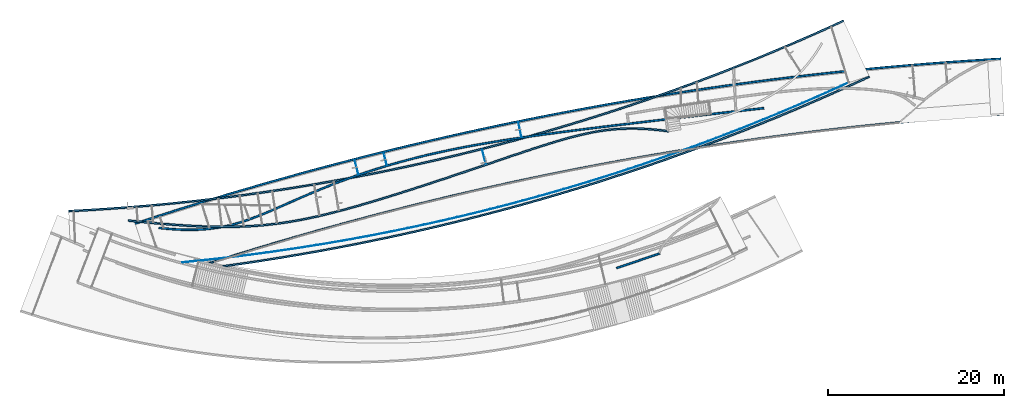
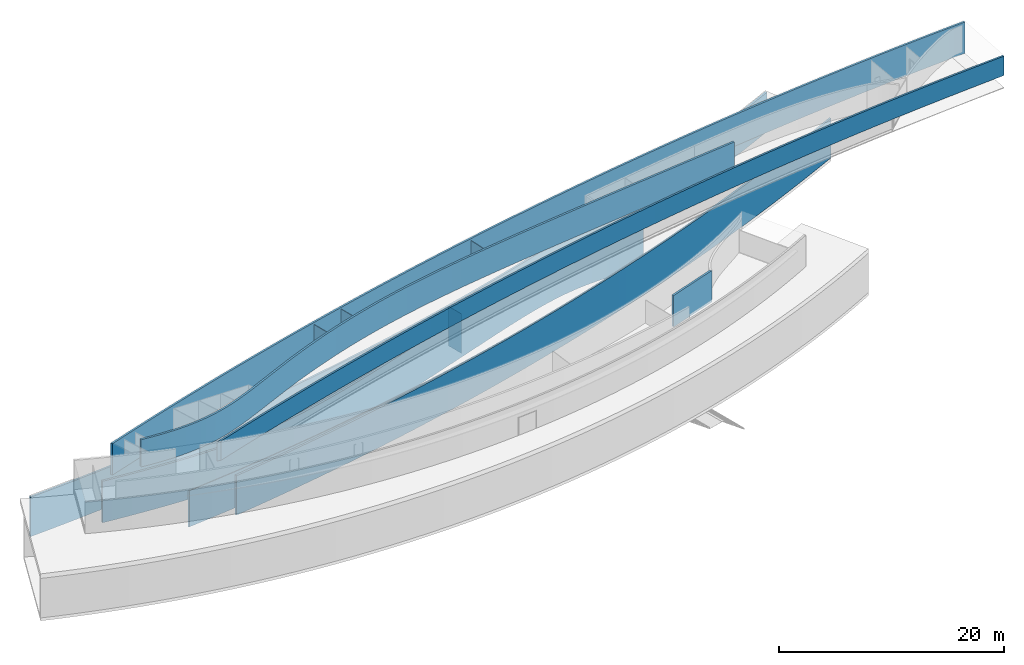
# Not in any storey, part 6 of 16: 12 walls.
"""IFC2X3 model written with IfcOpenShell, lengths in millimetres."""

from ifc_helpers import new_model, entity, si_unit, converted_unit, point, direction, frame, frame_2d, origin_with_axes, place, context, project, spatial, polyline, circle_curve, trimmed, segment, composite_curve, outline, extrude, material, layer, layer_set, layer_usage, type_object, element, save


model = new_model("IFC2X3")

# Units and contexts
model_context = context("Model", 3, precision=1.0, world=origin_with_axes(), true_north=direction((0.0, 1.0)))
ifc_project = project(units=[converted_unit("PLANEANGLEUNIT", "DEGREE", entity("IfcRatioMeasure", 0.017453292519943), si_unit("PLANEANGLEUNIT", "RADIAN"), dimensions=[0, 0, 0, 0, 0, 0, 0]), si_unit("LENGTHUNIT", "METRE", prefix="MILLI")], contexts=[model_context])

# Site
site_placement = place(None, origin_with_axes())
site = spatial("IfcSite", under=ifc_project, at=site_placement, Name="Site", CompositionType="ELEMENT")

# Walls
ifc_material_1 = material(Name="Wall layer 1")
ifc_layer_1 = layer(ifc_material_1, 200.0)
ifc_layer_set_1 = layer_set([ifc_layer_1], Name="HOKI 350")
ifc_layer_usage_1 = layer_usage(ifc_layer_set_1, "AXIS2", "POSITIVE", -100.0)
wall_type_1 = type_object("IfcWallType", Name="HOKI 350", PredefinedType="STANDARD", material=ifc_layer_set_1)
wall_1_placement = place(site_placement, frame((13106.7538682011, -7595.12150318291, 9600.0), z_axis=(0.0, 0.0, 1.0), x_axis=(-0.94651018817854, -0.322673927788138, 0.0)))
element("IfcWallStandardCase", 1, at=wall_1_placement, inside=site, type_object=wall_type_1, material=ifc_layer_usage_1, ObjectType="HOKI 350", context=model_context, shape_type="SweptSolid", body=[
    extrude(outline(polyline([(5181.53088139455, -200.0), (5181.53088139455, 3.638e-12), (0.0, 0.0), (113.969932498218, -199.999999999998), (5181.53088139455, -200.0)])), origin_with_axes(), (0.0, 0.0, 1.0), 3400.0),
])
wall_2_placement = place(site_placement, frame((-47244.3859671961, -3671.02688965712, 4500.0), z_axis=(0.0, 0.0, 1.0), x_axis=(0.994305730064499, -0.106565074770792, 0.0)))
element("IfcWallStandardCase", 2, at=wall_2_placement, inside=site, type_object=wall_type_1, material=ifc_layer_usage_1, ObjectType="HOKI 350", context=model_context, shape_type="SweptSolid", body=[
    extrude(outline(composite_curve([segment(polyline([(59903.9723939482, 16407.2152291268), (59910.2548044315, 16607.1165330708)]), True, "CONTINUOUS"), segment(polyline([(59910.2548044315, 16607.1165330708), (59620.7566253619, 16615.1991059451), (59336.5731823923, 16621.0958246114), (59057.5406375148, 16624.8305472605), (58783.4951527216, 16626.4271320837), (58514.2728900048, 16625.9094372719), (58249.7100113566, 16623.3013210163), (57989.6426787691, 16618.6266415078), (57733.9070542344, 16611.9092569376), (57482.3392997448, 16603.1730254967), (57234.7755772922, 16592.4418053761), (56991.052048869, 16579.7394547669), (56751.0048764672, 16565.0898318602), (56514.4702220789, 16548.516794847), (56281.2842476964, 16530.0442019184), (56051.2831153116, 16509.6959112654), (55824.3029869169, 16487.4957810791), (55599.9908768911, 16463.4455666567), (55378.2859873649, 16437.5733644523), (55159.0807582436, 16409.9033858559), (54942.267629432, 16380.4598422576), (54727.7390408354, 16349.2669450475), (54515.3874323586, 16316.3489056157), (54096.7849153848, 16245.4342456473), (53685.599597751, 16167.9095534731), (53280.9709986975, 16083.9685202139), (52882.0386374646, 15993.8048369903), (52487.9420332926, 15897.6121949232), (52097.572242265, 15795.5039676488), (51710.1613994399, 15687.6169764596), (51325.2077424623, 15574.1414098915), (50942.2095089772, 15455.2674564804), (50560.6649366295, 15331.1853047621), (50180.0722630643, 15202.0851432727), (49799.9297259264, 15068.157160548), (49419.735562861, 14929.5915451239), (49038.8989588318, 14786.5243810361), (48656.9526048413, 14639.0613368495), (48273.6688657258, 14487.3798772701), (47888.8201063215, 14331.6574670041), (47502.1786914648, 14172.0715707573), (47113.5169859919, 14008.7996532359), (46722.6073547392, 13842.0191791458), (46329.2221625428, 13671.9076131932), (45534.1359637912, 13322.244349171), (44727.4710401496, 12960.949134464), (43909.0374171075, 12589.3050910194), (43078.6451201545, 12208.5953407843), (41382.5080820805, 11424.715226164), (39644.6821576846, 10618.4639788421), (37873.4586167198, 9799.03327263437), (36080.2527677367, 8974.6540358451), (34277.0560570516, 8153.09663371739), (33375.4584555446, 7745.80435979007), (32475.8599309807, 7342.13143149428), (31579.7602120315, 6942.98581759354), (30688.228892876, 6549.1355507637), (29802.1080035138, 6161.3367918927), (28922.2395739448, 5780.34570186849), (28049.5279720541, 5406.97088515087), (27184.2068542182, 5041.91481837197), (26326.1406972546, 4685.78674659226), (25475.1939779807, 4339.19591487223), (24631.362619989, 4002.84818721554), (24211.8562684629, 3838.70727205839), (23793.7113078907, 3677.33124549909), (23376.744117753, 3518.77729965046), (22960.7710775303, 3363.1026266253), (22545.6085667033, 3210.36441853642), (22131.0729647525, 3060.61986749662), (21717.0821033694, 2913.96661957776), (21303.391967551, 2770.48231822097), (20889.6089695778, 2630.20588829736), (20475.3395217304, 2493.176254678), (20060.1900362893, 2359.43234223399), (19643.766925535, 2229.01307583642), (19225.6766017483, 2101.95738035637), (18805.5254772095, 1978.30418066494), (18383.0332245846, 1858.13015912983), (17957.7858142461, 1741.51084125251), (17529.1409143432, 1628.46946895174), (17096.4561930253, 1519.02928414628), (16659.0893184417, 1413.21352875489), (16216.3979587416, 1311.04544469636), (15767.7397820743, 1212.54827388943), (15312.4724565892, 1117.74525825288), (14850.0177267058, 1026.67845089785), (14379.7791217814, 939.415841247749), (13900.8315275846, 855.967820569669), (13412.2498298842, 776.344780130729), (12913.1089144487, 700.557111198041), (12402.4836670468, 628.615205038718), (11879.4489734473, 560.529452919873), (11343.0797194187, 496.310246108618), (10792.4330179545, 435.971329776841), (10226.6542093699, 379.5528700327), (9644.50264591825, 327.053550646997), (9044.7376798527, 278.472055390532), (8426.11866342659, 233.807068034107), (7787.40494889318, 193.057272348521), (7127.35588850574, 156.221352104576), (6444.73083451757, 123.297991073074), (5738.22427947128, 94.2854931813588), (5006.59124677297, 69.1868291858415), (4248.24000392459, 47.9879748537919), (3461.5788184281, 30.6749059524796), (2645.01595778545, 17.2335982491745), (1796.95968949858, 7.6500275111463), (915.818281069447, 1.91016950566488), (0.0, 0.0)]), True, "CONTINUOUS"), segment(polyline([(0.0, 0.0), (3e-15, -200.0)]), True, "CONTINUOUS"), segment(polyline([(3e-15, -200.0), (916.653458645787, -198.085904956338), (1798.81417124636, -192.334740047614), (2648.02162628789, -182.733185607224), (3465.81531225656, -169.267921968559), (4253.73471763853, -151.925629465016), (5013.31933091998, -130.692988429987), (5746.10864058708, -105.556679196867), (6453.64213512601, -76.5033820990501), (7137.66325005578, -43.5073633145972), (7799.36737475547, -6.5680648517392), (8439.91380954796, 34.3097774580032), (9060.46185475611, 79.1214277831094), (9662.1708107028, 127.862150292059), (10246.1999777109, 180.527209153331), (10813.7086561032, 237.111868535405), (11365.8561462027, 297.611392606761), (11904.0563696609, 362.057673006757), (12429.202344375, 430.433798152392), (12942.1198895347, 502.71316627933), (13443.6348243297, 578.869175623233), (13934.5729679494, 658.875224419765), (14415.7601395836, 742.704710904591), (14888.0221584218, 830.331033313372), (15352.1848436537, 921.727589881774), (15809.2853322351, 1016.91904905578), (16260.0062074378, 1115.88162441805), (16704.8969177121, 1218.56778702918), (17144.5069115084, 1324.9300079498), (17579.385637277, 1434.92075824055), (18010.0825434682, 1548.49250896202), (18437.1470785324, 1665.59773117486), (18861.12869092, 1786.18889593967), (19282.7046575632, 1910.26498827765), (19702.3704635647, 2037.80574142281), (20120.451060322, 2168.74869640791), (20537.2713992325, 2303.03139426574), (20953.1564316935, 2440.59137602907), (21368.4311091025, 2581.36618273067), (21783.4203828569, 2725.29335540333), (22198.4492043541, 2872.31043507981), (22613.905581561, 3022.38897368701), (23030.0764051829, 3175.50045972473), (23447.1021478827, 3331.5706023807), (23865.1232823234, 3490.52511084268), (24284.280281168, 3652.28969429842), (24704.7136170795, 3816.79006193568), (25549.9711907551, 4153.70098650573), (26402.0472253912, 4500.75313993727), (27261.3421951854, 4857.39158453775), (28127.7903421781, 5222.92113916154), (29001.3259084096, 5596.64662266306), (29881.8527537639, 5977.92331481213), (30768.6968336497, 6366.0387427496), (31660.8970193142, 6760.1838204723), (32557.4921820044, 7159.54946197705), (33457.4765487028, 7563.39562037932), (34359.468291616, 7970.86604904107), (36163.4198586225, 8792.76709715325), (37957.2387880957, 9617.42736633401), (39728.8169851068, 10437.0216166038), (41466.5635688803, 11243.2360326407), (43162.2360693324, 12026.9017712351), (43992.0739905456, 12407.3586591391), (44809.5711193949, 12778.5794791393), (45615.0942745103, 13139.3640662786), (46409.0102745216, 13488.5122555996), (46801.6385543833, 13658.2995389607), (47191.5179467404, 13824.6470196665), (47578.9360123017, 13987.40354789), (47964.1803117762, 14146.4179738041), (48347.5384058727, 14301.5391475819), (48729.2978553, 14452.6159193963), (49109.7462207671, 14599.4971394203), (49489.1710629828, 14742.031657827), (49867.6767196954, 14879.9932561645), (50245.6483997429, 15013.1796143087), (50623.7061023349, 15141.4425305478), (51002.4698266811, 15264.6338031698), (51382.5595719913, 15382.6052304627), (51764.5953374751, 15495.2086107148), (52149.1971223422, 15602.295742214), (52536.9849258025, 15703.7184232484), (52928.4019961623, 15799.2769801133), (53324.061791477, 15888.7384478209), (53724.9925256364, 15971.9433618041), (54132.2224125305, 16048.7322574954), (54546.7796660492, 16118.9456703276), (54757.1273721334, 16151.5367379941), (54969.6925000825, 16182.4241357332), (55184.6035766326, 16211.5879304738), (55401.9891285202, 16239.008189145), (55621.9776824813, 16264.664978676), (55844.6977652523, 16288.5383659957), (56070.3357172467, 16310.611371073), (56298.859821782, 16330.8387076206), (56530.4535236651, 16349.1971417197), (56765.300267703, 16365.6634394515), (57003.5834987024, 16380.2143668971), (57245.4866614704, 16392.8266901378), (57491.193200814, 16403.4771752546), (57740.88656154, 16412.1425883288), (57994.7501884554, 16418.7996954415), (58252.9675263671, 16423.4252626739), (58515.722020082, 16425.9960561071), (58783.1971144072, 16426.4888418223), (59055.5762541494, 16424.8803859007), (59333.0428841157, 16421.1474544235), (59615.780449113, 16415.2668134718), (59903.9723939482, 16407.2152291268)]), True, "CONTINUOUS")], self_intersect="UNKNOWN")), origin_with_axes(), (0.0, 0.0, 1.0), 4500.0),
])
wall_3_placement = place(site_placement, frame((24910.3553259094, 8889.93987014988, 9850.0), z_axis=(0.0, 0.0, 1.0), x_axis=(-0.993718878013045, -0.111905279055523, 0.0)))
element("IfcWallStandardCase", 3, at=wall_3_placement, inside=site, type_object=wall_type_1, material=ifc_layer_usage_1, ObjectType="HOKI 350", context=model_context, shape_type="SweptSolid", body=[
    extrude(outline(composite_curve([segment(polyline([(69749.9004850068, 5624.2432206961), (69794.7365881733, 5819.15274804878)]), True, "CONTINUOUS"), segment(polyline([(69794.7365881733, 5819.15274804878), (69470.235932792, 5892.41201867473), (69152.6726381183, 5961.33072900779), (68841.8523261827, 6025.99867352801), (68537.5806190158, 6086.50564671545), (68239.663138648, 6142.94144305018), (67947.9055071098, 6195.39585701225), (67662.1133464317, 6243.95868308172), (67382.0922786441, 6288.71971573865), (67107.6479257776, 6329.7687494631), (66838.5859098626, 6367.19557873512), (66574.7118529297, 6401.08999803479), (66315.8313770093, 6431.54180184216), (66061.7501041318, 6458.64078463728), (65812.2736563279, 6482.47674090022), (65567.207655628, 6503.13946511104), (65326.3577240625, 6520.71875174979), (65089.2160467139, 6535.319449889), (64855.7932242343, 6547.00266005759), (64625.959767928, 6555.84050841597), (64399.5861890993, 6561.90512112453), (64176.5429990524, 6565.26862434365), (63956.7007090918, 6566.00314423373), (63739.9298305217, 6564.18080695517), (63526.1008746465, 6559.87373866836), (63315.0843527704, 6553.15406553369), (63106.7507761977, 6544.09391371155), (62900.9706562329, 6532.76540936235), (62697.6145041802, 6519.24067864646), (62496.5528313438, 6503.59184772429), (62297.6561490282, 6485.89104275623), (62100.7949685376, 6466.21038990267), (61905.8398011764, 6444.622015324), (61520.6860526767, 6395.92427585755), (61141.3582339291, 6340.24584319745), (60767.2257649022, 6278.03489164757), (60397.6580655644, 6209.73959551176), (60032.0245558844, 6135.80812909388), (59669.6946558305, 6056.68866669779), (59310.0377853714, 5972.82938262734), (58952.4233644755, 5884.67845118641), (58596.0724179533, 5792.61011461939), (58240.4147224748, 5696.92068702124), (57885.1166414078, 5597.93736144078), (57529.8445381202, 5495.98733092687), (57174.26477598, 5391.39778852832), (56818.0437183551, 5284.49592729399), (56102.3431701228, 5065.06402051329), (53911.0149788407, 4380.50717060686), (53162.0434692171, 4149.44203940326), (52402.50125306, 3919.738093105), (51632.5060322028, 3692.58022403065), (50852.1169854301, 3469.01537405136), (50061.3932915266, 3250.0904850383), (49662.2648525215, 3142.69464528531), (49260.8253458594, 3036.81596006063), (48857.1327330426, 2932.51916522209), (48451.2449755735, 2829.8689966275), (48043.2200349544, 2728.93019013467), (47633.1158726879, 2629.76748160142), (47220.9904502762, 2532.44560688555), (46806.9017292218, 2437.02930184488), (46391.007182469, 2343.58916696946), (45973.4672657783, 2252.17092756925), (45554.3044474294, 2162.79291242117), (45133.5411957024, 2075.47345030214), (44711.199978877, 1990.23086998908), (44287.3032652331, 1907.08350025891), (43861.8735230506, 1826.04966988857), (43434.9332206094, 1747.14770765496), (43006.5898173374, 1670.40398421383), (42576.8938206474, 1595.82858702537), (42145.7547514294, 1523.41041214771), (41713.0821305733, 1453.13835563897), (41278.7854789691, 1385.00131355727), (40842.774317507, 1318.98818196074), (40404.9581670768, 1255.0878569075), (39965.2465485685, 1193.28923445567), (39523.6137531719, 1133.58752248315), (39079.9658169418, 1075.96794552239), (38634.0739930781, 1020.39947767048), (38185.7095347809, 966.851093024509), (37734.64369525, 915.291765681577), (37280.6477276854, 865.690469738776), (36823.4928852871, 818.016179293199), (36362.950421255, 772.237868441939), (35898.8354647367, 728.32703714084), (35430.9037413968, 686.251190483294), (34958.7742320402, 645.967183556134), (34482.065917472, 607.431871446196), (34000.3977784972, 570.602109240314), (33513.3887959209, 535.434752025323), (32521.8242231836, 469.91467291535), (31504.3413744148, 410.52747248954), (30457.1392350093, 356.912486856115), (29375.8373710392, 308.688803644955), (28256.0553485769, 265.475510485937), (27093.3297730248, 226.893723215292), (25882.3513478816, 192.58559946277), (24617.2861482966, 162.195178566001), (23292.3002494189, 135.366499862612), (21901.3945302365, 111.751680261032), (20437.6115045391, 91.0620896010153), (18893.5341598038, 73.0279472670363), (17261.7454835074, 57.3794726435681), (15534.6037836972, 43.8637960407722), (13703.3837276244, 32.3274996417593), (11758.9503692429, 22.6491791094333), (9692.16876250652, 14.7074301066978), (7493.63767976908, 8.40777276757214), (5152.75783034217, 3.79671826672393), (0.0, 0.0)]), True, "CONTINUOUS"), segment(polyline([(0.0, 0.0), (3.638e-12, -199.999999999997)]), True, "CONTINUOUS"), segment(polyline([(3.638e-12, -199.999999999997), (5153.08918640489, -196.202937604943), (7494.15221658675, -191.5915266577), (9692.83641988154, -185.291455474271), (11759.8333245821, -177.348778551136), (13704.5493961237, -167.668928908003), (15536.0696188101, -156.130732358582), (17263.4789769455, -142.613014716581), (18895.659707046, -126.960440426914), (20440.2586845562, -108.919794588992), (21904.6003245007, -88.2222824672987), (23296.0090419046, -64.5991093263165), (24621.6972491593, -37.7551890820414), (25887.6789150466, -7.34159892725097), (27099.6263290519, 26.99391030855), (28263.2117806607, 65.6035877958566), (29384.1008259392, 108.861911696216), (30466.8106061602, 157.150752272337), (31515.4754266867, 210.840057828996), (32534.2295928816, 270.29977667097), (33527.2961165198, 335.922968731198), (34015.2131494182, 371.158123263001), (34497.8401033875, 408.062401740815), (34975.517533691, 446.675867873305), (35448.5859955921, 487.038585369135), (35917.3860443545, 529.19061793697), (36382.2582352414, 573.172029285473), (36843.6195498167, 619.033330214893), (37301.7390338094, 666.811305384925), (37756.798505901, 716.531556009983), (38208.979784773, 768.219683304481), (38658.464689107, 821.901288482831), (39105.4350375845, 877.601972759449), (39550.0726488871, 935.347337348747), (39992.5593416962, 995.162983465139), (40433.1567876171, 1057.08789466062), (40872.0086456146, 1121.1427985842), (41309.1556003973, 1187.33085953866), (41744.6383366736, 1255.65524182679), (42178.497539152, 1326.11910975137), (42610.7738925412, 1398.72562761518), (43041.5080815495, 1473.47795972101), (43470.7407908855, 1550.37927037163), (43898.5880566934, 1629.45069406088), (44325.071996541, 1710.68881965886), (44750.1199366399, 1794.06500095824), (45173.6592032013, 1879.55059175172), (45595.6171224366, 1967.116945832), (46015.9210205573, 2056.73541699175), (46434.4982237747, 2148.37735902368), (46851.2760583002, 2242.01412572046), (47266.2601353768, 2337.63841304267), (47679.4077374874, 2435.2047828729), (48090.6136651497, 2534.63648219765), (48499.772718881, 2635.85675800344), (48906.779699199, 2738.78885727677), (49311.5294066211, 2843.35602700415), (49713.9166416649, 2949.48151417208), (50113.8362048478, 3057.08856576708), (50906.1774530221, 3276.46384743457), (51688.2994544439, 3500.52621053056), (52459.8611934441, 3728.14317568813), (53220.5216543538, 3958.18226354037), (53970.1965414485, 4189.46311013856), (56161.5100921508, 4874.01618530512), (56875.8813310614, 5093.04761605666), (57230.987219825, 5199.62077194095), (57585.2297919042, 5303.82257588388), (57939.0014251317, 5405.34579367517), (58292.6944973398, 5503.88319110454), (58646.7013863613, 5599.12753396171), (59001.4144700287, 5690.77158803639), (59357.0470662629, 5778.44988788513), (59714.0608886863, 5861.72560670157), (60073.2370930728, 5940.18855726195), (60435.3568351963, 6013.42855234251), (60801.2012708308, 6081.03540471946), (61171.5515557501, 6142.59892716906), (61547.1888457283, 6197.70893246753), (61928.8942965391, 6245.95523339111), (62122.2783478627, 6267.37784867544), (62317.3485564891, 6286.89942821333), (62514.261268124, 6304.4495740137), (62713.1728284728, 6319.95788808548), (62914.2395832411, 6333.35397243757), (63117.6178781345, 6344.5674290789), (63323.4640588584, 6353.5278600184), (63531.9344711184, 6360.16486726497), (63743.18546062, 6364.40805282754), (63957.3733730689, 6366.18701871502), (64174.6545541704, 6365.43136693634), (64395.1853496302, 6362.07069950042), (64619.1221051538, 6356.03461841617), (64846.6211664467, 6347.25272569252), (65077.8388792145, 6335.65462333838), (65312.9315891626, 6321.16991336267), (65552.2071752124, 6303.71106192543), (65795.5391248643, 6283.20729910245), (66043.1449307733, 6259.56541828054), (66295.2420855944, 6232.69221284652), (66552.0480819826, 6202.49447618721), (66813.7804125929, 6168.87900168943), (67080.6565700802, 6131.75258274), (67352.8940470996, 6091.02201272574), (67630.710336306, 6046.59408503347), (67914.3229303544, 5998.37559305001), (68203.9493218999, 5946.27333016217), (68499.8070035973, 5890.19408975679), (68802.1134681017, 5830.04466522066), (69111.0862080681, 5765.73184994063), (69426.9427161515, 5697.1624373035), (69749.9004850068, 5624.2432206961)]), True, "CONTINUOUS")], self_intersect="UNKNOWN")), origin_with_axes(), (0.0, 0.0, 1.0), 2950.0),
])
wall_4_placement = place(site_placement, frame((-36533.2527394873, -9067.32202254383, 4720.0), z_axis=(0.0, 0.0, 1.0), x_axis=(0.990880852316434, 0.13474099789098, 0.0)))
element("IfcWallStandardCase", 4, at=wall_4_placement, inside=site, type_object=wall_type_1, material=ifc_layer_usage_1, ObjectType="HOKI 350", context=model_context, shape_type="SweptSolid", body=[
    extrude(outline(composite_curve([segment(polyline([(75676.629491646, 11450.4803590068), (75617.460899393, 11641.5276769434)]), True, "CONTINUOUS"), segment(trimmed(circle_curve(frame_2d((-3.81988e-10, 255800.000000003), x_axis=(0.295842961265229, -0.95523658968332)), 255600.000000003), [point((75617.460899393, 11641.5276769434))], [point((2.9104e-11, 199.999999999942))], False, "CARTESIAN"), True, "CONTINUOUS"), segment(polyline([(7.276e-12, 199.999999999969), (0.0, 0.0)]), True, "CONTINUOUS"), segment(trimmed(circle_curve(frame_2d((3.38332e-10, 255799.999999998), x_axis=(-1e-15, -1.0)), 255799.999999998), [point((0.0, 0.0))], [point((75676.6294916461, 11450.4803590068))], True, "CARTESIAN"), True, "CONTINUOUS")], self_intersect="UNKNOWN")), origin_with_axes(), (0.0, 0.0, 1.0), 4280.0),
])
wall_5_placement = place(site_placement, frame((-54051.081229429, -2605.36139274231, 4720.0), z_axis=(0.0, 0.0, 1.0), x_axis=(0.998764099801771, 0.049701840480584, 0.0)))
element("IfcWallStandardCase", 5, at=wall_5_placement, inside=site, type_object=wall_type_1, material=ifc_layer_usage_1, ObjectType="HOKI 350", context=model_context, shape_type="SweptSolid", body=[
    extrude(outline(composite_curve([segment(polyline([(88994.8849225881, 17018.2698197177), (88920.2873660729, 17203.8370704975)]), True, "CONTINUOUS"), segment(trimmed(circle_curve(frame_2d((1.38243e-10, 238400.0), x_axis=(0.372987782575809, -0.92783625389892)), 238400.0), [point((88920.2873660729, 17203.8370704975))], [point((0.0, 0.0))], False, "CARTESIAN"), True, "CONTINUOUS"), segment(polyline([(0.0, 0.0), (3.864e-12, -199.999999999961)]), True, "CONTINUOUS"), segment(trimmed(circle_curve(frame_2d((-1.63709e-10, 238400.000000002), x_axis=(1e-15, -1.0)), 238600.000000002), [point((3.864e-12, -199.999999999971))], [point((88994.8849225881, 17018.2698197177))], True, "CARTESIAN"), True, "CONTINUOUS")], self_intersect="UNKNOWN")), origin_with_axes(), (0.0, 0.0, 1.0), 4280.0),
])
wall_6_placement = place(site_placement, frame((-46516.1101933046, -4025.86113781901, 9600.0), z_axis=(0.0, 0.0, 1.0), x_axis=(0.949368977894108, 0.314163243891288, 0.0)))
element("IfcWallStandardCase", 6, at=wall_6_placement, inside=site, type_object=wall_type_1, material=ifc_layer_usage_1, ObjectType="HOKI 350", context=model_context, shape_type="SweptSolid", body=[
    extrude(outline(composite_curve([segment(polyline([(99150.5862970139, -13309.7025748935), (99202.5656345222, -13116.5752892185)]), True, "CONTINUOUS"), segment(trimmed(circle_curve(frame_2d((4.98403e-10, -381699.999999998), x_axis=(0.259896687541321, 0.965636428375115)), 381699.999999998), [point((99202.5656345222, -13116.5752892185))], [point((0.0, 0.0))], True, "CARTESIAN"), True, "CONTINUOUS"), segment(polyline([(0.0, 0.0), (3.98e-13, -199.999999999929)]), True, "CONTINUOUS"), segment(trimmed(circle_curve(frame_2d((8.07631e-10, -381699.999999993), x_axis=(0.0, 1.0)), 381499.999999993), [point((3.98e-13, -199.999999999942))], [point((99150.5862970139, -13309.7025748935))], False, "CARTESIAN"), True, "CONTINUOUS")], self_intersect="UNKNOWN")), origin_with_axes(), (0.0, 0.0, 1.0), 3400.0),
])
wall_7_placement = place(site_placement, frame((52153.1778310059, 8187.12227575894, 10900.0), z_axis=(0.0, 0.0, 1.0), x_axis=(-0.99808828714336, -0.061804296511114, 0.0)))
element("IfcWallStandardCase", 7, at=wall_7_placement, inside=site, type_object=wall_type_1, material=ifc_layer_usage_1, ObjectType="HOKI 350", context=model_context, shape_type="SweptSolid", body=[
    extrude(outline(composite_curve([segment(polyline([(90890.5623425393, 11246.414815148), (91254.2868581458, 11131.752181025)]), True, "CONTINUOUS"), segment(trimmed(circle_curve(frame_2d((-3.16504e-10, 372900.000000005), x_axis=(0.244583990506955, -0.969628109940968)), 373100.000000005), [point((91254.2868581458, 11131.752181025))], [point((0.0, -199.999999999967))], False, "CARTESIAN"), True, "CONTINUOUS"), segment(polyline([(1.4552e-11, -200.000000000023), (0.0, 0.0)]), True, "CONTINUOUS"), segment(trimmed(circle_curve(frame_2d((1.644366e-09, 372899.999999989), x_axis=(-4e-15, -1.0)), 372899.999999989), [point((0.0, 0.0))], [point((90890.5623425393, 11246.414815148))], True, "CARTESIAN"), True, "CONTINUOUS")], self_intersect="UNKNOWN")), origin_with_axes(), (0.0, 0.0, 1.0), 2100.0),
])
ifc_material_2 = material(Name="Wall layer 1")
ifc_layer_2 = layer(ifc_material_2, 50.0)
ifc_layer_set_2 = layer_set([ifc_layer_2], Name="HOKI 50mm")
ifc_layer_usage_2 = layer_usage(ifc_layer_set_2, "AXIS2", "POSITIVE", -25.0)
wall_type_2 = type_object("IfcWallType", Name="HOKI 50mm", PredefinedType="STANDARD", material=ifc_layer_set_2)
wall_8_placement = place(site_placement, frame((-6697.20130141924, 2662.82962359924, 4720.0), z_axis=(0.0, 0.0, 1.0), x_axis=(-0.24642578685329, 0.969161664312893, 0.0)))
element("IfcWallStandardCase", 8, at=wall_8_placement, inside=site, type_object=wall_type_2, material=ifc_layer_usage_2, ObjectType="HOKI 50mm", context=model_context, shape_type="SweptSolid", body=[
    extrude(outline(composite_curve([segment(trimmed(circle_curve(frame_2d((240245.962792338, 7.53826505e-07), x_axis=(-1.0, -3.159e-12)), 238600.006983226), [point((1645.95580911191, -4.55e-13))], [point((1645.96104800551, -50.0000000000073))], True, "CARTESIAN"), True, "CONTINUOUS"), segment(polyline([(1645.9610480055, -50.0000000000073), (2.29779644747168, -49.9999999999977)]), True, "CONTINUOUS"), segment(polyline([(2.29779644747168, -49.9999999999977), (-1.63249262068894, -9.09e-13)]), True, "CONTINUOUS"), segment(polyline([(-1.63249262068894, -9.09e-13), (1645.9558091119, -4.55e-13)]), True, "CONTINUOUS")], self_intersect="UNKNOWN")), origin_with_axes(), (0.0, 0.0, 1.0), 4280.0),
])
wall_9_placement = place(site_placement, frame((-2635.23110270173, 5589.00884205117, 9850.0), z_axis=(0.0, 0.0, 1.0), x_axis=(-0.199780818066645, 0.97984061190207, 0.0)))
element("IfcWallStandardCase", 9, at=wall_9_placement, inside=site, type_object=wall_type_2, material=ifc_layer_usage_2, ObjectType="HOKI 50mm", context=model_context, shape_type="SweptSolid", body=[
    extrude(outline(composite_curve([segment(trimmed(circle_curve(frame_2d((-379680.320761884, -186.138872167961), x_axis=(0.999999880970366, 0.000487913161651)), 381500.00204566), [point((1819.63587397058, -1.8076e-11))], [point((1819.65699309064, -50.0000000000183))], False, "CARTESIAN"), True, "CONTINUOUS"), segment(polyline([(1819.65699309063, -50.0000000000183), (147.495212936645, -49.9999999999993)]), True, "CONTINUOUS"), segment(polyline([(147.495212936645, -49.9999999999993), (150.280082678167, -2.27e-13)]), True, "CONTINUOUS"), segment(polyline([(150.280082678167, -2.27e-13), (1819.63587397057, -1.8076e-11)]), True, "CONTINUOUS")], self_intersect="UNKNOWN")), origin_with_axes(), (0.0, 0.0, 1.0), 2950.0),
])
wall_10_placement = place(site_placement, frame((-17896.4324085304, 2341.049251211, 9850.0), z_axis=(0.0, 0.0, 1.0), x_axis=(-0.241106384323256, 0.970498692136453, 0.0)))
element("IfcWallStandardCase", 10, at=wall_10_placement, inside=site, type_object=wall_type_2, material=ifc_layer_usage_2, ObjectType="HOKI 50mm", context=model_context, shape_type="SweptSolid", body=[
    extrude(outline(composite_curve([segment(trimmed(circle_curve(frame_2d((-379874.845037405, 302.752875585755), x_axis=(0.99999968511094, -0.000793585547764)), 381499.986282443), [point((1625.02111486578, 9.095e-12))], [point((1624.97815903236, -49.9999999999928))], False, "CARTESIAN"), True, "CONTINUOUS"), segment(polyline([(1624.97815903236, -49.9999999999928), (202.523557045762, -50.0000000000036)]), True, "CONTINUOUS"), segment(polyline([(202.523557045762, -50.0000000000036), (200.216022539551, -1.819e-12)]), True, "CONTINUOUS"), segment(polyline([(200.216022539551, -1.819e-12), (1625.02111486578, 9.095e-12)]), True, "CONTINUOUS")], self_intersect="UNKNOWN")), origin_with_axes(), (0.0, 0.0, 1.0), 2950.0),
])
wall_11_placement = place(site_placement, frame((-21136.3259440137, 1350.45445168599, 9850.0), z_axis=(0.0, 0.0, 1.0), x_axis=(-0.246883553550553, 0.969045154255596, 0.0)))
element("IfcWallStandardCase", 11, at=wall_11_placement, inside=site, type_object=wall_type_2, material=ifc_layer_usage_2, ObjectType="HOKI 50mm", context=model_context, shape_type="SweptSolid", body=[
    extrude(outline(composite_curve([segment(trimmed(circle_curve(frame_2d((-379706.285179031, -818.429594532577), x_axis=(0.999997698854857, 0.002145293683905)), 381500.025228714), [point((1792.86216275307, 1.2733e-11))], [point((1792.96615112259, -49.9999999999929))], False, "CARTESIAN"), True, "CONTINUOUS"), segment(polyline([(1792.9661511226, -49.9999999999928), (154.687287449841, -49.9999999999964)]), True, "CONTINUOUS"), segment(polyline([(154.687287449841, -49.9999999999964), (150.523886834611, -4e-15)]), True, "CONTINUOUS"), segment(polyline([(150.523886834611, -4e-15), (1792.86216275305, 1.2708e-11)]), True, "CONTINUOUS")], self_intersect="UNKNOWN")), origin_with_axes(), (0.0, 0.0, 1.0), 2950.0),
])
wall_12_placement = place(site_placement, frame((34541.2968255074, 11881.9212161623, 4720.0), z_axis=(0.0, 0.0, 1.0), x_axis=(-0.907980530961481, -0.419012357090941, 0.0)))
element("IfcWallStandardCase", 12, at=wall_12_placement, inside=site, type_object=wall_type_2, material=ifc_layer_usage_2, ObjectType="HOKI 50mm", context=model_context, shape_type="SweptSolid", body=[
    extrude(outline(composite_curve([segment(trimmed(circle_curve(frame_2d((17868.7257221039, -84314.8802954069), x_axis=(0.640021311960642, 0.768357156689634)), 92658.4613832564), [point((77172.1157408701, -13120.0883637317))], [point((77281.6238915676, -13211.4486129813))], False, "CARTESIAN"), True, "CONTINUOUS"), segment(trimmed(circle_curve(frame_2d((9.4587e-11, -233522.518931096), x_axis=(0.331009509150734, 0.943627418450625)), 233472.518931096), [point((77281.6238915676, -13211.4486129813))], [point((-1.4552e-11, -49.9999999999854))], True, "CARTESIAN"), True, "CONTINUOUS"), segment(polyline([(-1.8189e-11, -49.9999999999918), (0.0, 0.0)]), True, "CONTINUOUS"), segment(trimmed(circle_curve(frame_2d((3.52884e-10, -233522.518931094), x_axis=(0.0, 1.0)), 233522.518931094), [point((0.0, 0.0))], [point((77172.1157408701, -13120.0883637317))], False, "CARTESIAN"), True, "CONTINUOUS")], self_intersect="UNKNOWN")), origin_with_axes(), (0.0, 0.0, 1.0), 3930.0),
])

save(model, "model.ifc")
